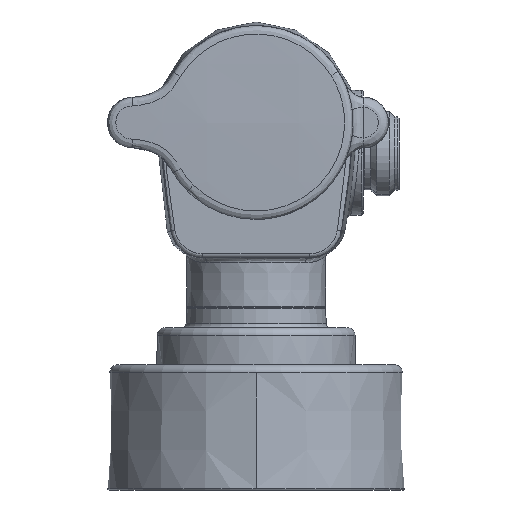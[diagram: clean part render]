
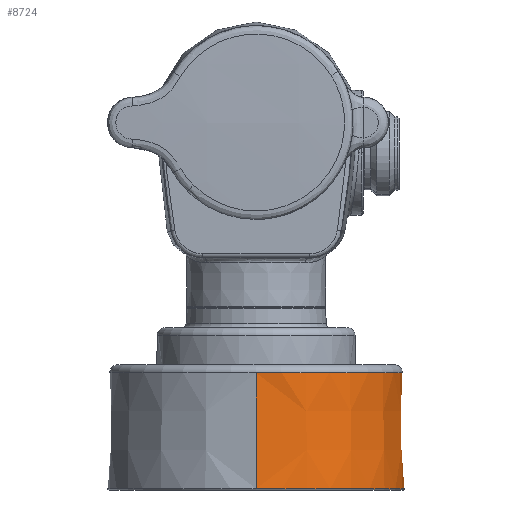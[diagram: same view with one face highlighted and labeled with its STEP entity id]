
A CAD part, left-side view. The second image highlights one B-rep face of the part: STEP entity #8724.
In plain terms, the highlighted conical face has half-angle 1 degrees and reference radius 36.2 mm.
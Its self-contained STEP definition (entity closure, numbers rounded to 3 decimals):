
#452 = DIRECTION ( 'NONE',  ( 0., 0., 1. ) ) ;
#1197 = AXIS2_PLACEMENT_3D ( 'NONE', #18469, #1895, #21261 ) ;
#1868 = CARTESIAN_POINT ( 'NONE',  ( 10.741, 141.453, 188.774 ) ) ;
#1895 = DIRECTION ( 'NONE',  ( 0., 0., -1. ) ) ;
#1911 = AXIS2_PLACEMENT_3D ( 'NONE', #9439, #28836, #12238 ) ;
#2294 = EDGE_CURVE ( 'NONE', #30752, #12776, #11735, .T. ) ;
#2353 = CONICAL_SURFACE ( 'NONE', #32284, 36.2, 0.017 ) ;
#2758 = ORIENTED_EDGE ( 'NONE', *, *, #4193, .F. ) ;
#4193 = EDGE_CURVE ( 'NONE', #16079, #23847, #35238, .T. ) ;
#4456 = DIRECTION ( 'NONE',  ( 0.017, 0., -1. ) ) ;
#4644 = AXIS2_PLACEMENT_3D ( 'NONE', #26244, #9631, #29008 ) ;
#5084 = ORIENTED_EDGE ( 'NONE', *, *, #2294, .T. ) ;
#5193 = VECTOR ( 'NONE', #17486, 1000. ) ;
#5235 = CIRCLE ( 'NONE', #20185, 36.736 ) ;
#6365 = CIRCLE ( 'NONE', #1197, 36.234 ) ;
#6966 = EDGE_CURVE ( 'NONE', #12776, #10570, #22693, .T. ) ;
#8724 = ADVANCED_FACE ( 'NONE', ( #31841 ), #2353, .T. ) ;
#8777 = EDGE_CURVE ( 'NONE', #29872, #30752, #17104, .T. ) ;
#9439 = CARTESIAN_POINT ( 'NONE',  ( 46.976, 141.453, 188.774 ) ) ;
#9631 = DIRECTION ( 'NONE',  ( 0., 0., 1. ) ) ;
#9893 = CARTESIAN_POINT ( 'NONE',  ( 83.176, 141.453, 190.739 ) ) ;
#10059 = CARTESIAN_POINT ( 'NONE',  ( 83.711, 141.453, 160.044 ) ) ;
#10570 = VERTEX_POINT ( 'NONE', #24435 ) ;
#11288 = ORIENTED_EDGE ( 'NONE', *, *, #8777, .T. ) ;
#11735 = LINE ( 'NONE', #28498, #5193 ) ;
#12109 = DIRECTION ( 'NONE',  ( 0., 0., -1. ) ) ;
#12238 = DIRECTION ( 'NONE',  ( 0., -1., 0. ) ) ;
#12776 = VERTEX_POINT ( 'NONE', #27853 ) ;
#13996 = EDGE_LOOP ( 'NONE', ( #23464, #11288, #5084, #19459, #19295, #2758 ) ) ;
#14914 = DIRECTION ( 'NONE',  ( 1., 0., 0. ) ) ;
#16079 = VERTEX_POINT ( 'NONE', #31459 ) ;
#17015 = CARTESIAN_POINT ( 'NONE',  ( 46.976, 141.453, 160.044 ) ) ;
#17104 = CIRCLE ( 'NONE', #1911, 36.234 ) ;
#17486 = DIRECTION ( 'NONE',  ( -0.017, 0., -1. ) ) ;
#18469 = CARTESIAN_POINT ( 'NONE',  ( 46.976, 141.453, 188.774 ) ) ;
#18940 = EDGE_CURVE ( 'NONE', #16079, #29872, #6365, .T. ) ;
#19295 = ORIENTED_EDGE ( 'NONE', *, *, #32082, .T. ) ;
#19459 = ORIENTED_EDGE ( 'NONE', *, *, #6966, .T. ) ;
#19813 = DIRECTION ( 'NONE',  ( 0., 1., 0. ) ) ;
#20185 = AXIS2_PLACEMENT_3D ( 'NONE', #17015, #452, #19813 ) ;
#21261 = DIRECTION ( 'NONE',  ( 0., -1., 0. ) ) ;
#22693 = CIRCLE ( 'NONE', #4644, 36.736 ) ;
#23016 = CARTESIAN_POINT ( 'NONE',  ( 46.976, 141.453, 190.739 ) ) ;
#23464 = ORIENTED_EDGE ( 'NONE', *, *, #18940, .T. ) ;
#23847 = VERTEX_POINT ( 'NONE', #10059 ) ;
#24435 = CARTESIAN_POINT ( 'NONE',  ( 46.976, 104.717, 160.044 ) ) ;
#24492 = CARTESIAN_POINT ( 'NONE',  ( 46.976, 105.219, 188.774 ) ) ;
#26244 = CARTESIAN_POINT ( 'NONE',  ( 46.976, 141.453, 160.044 ) ) ;
#27853 = CARTESIAN_POINT ( 'NONE',  ( 10.24, 141.453, 160.044 ) ) ;
#27883 = VECTOR ( 'NONE', #4456, 1000. ) ;
#28498 = CARTESIAN_POINT ( 'NONE',  ( 10.776, 141.453, 190.739 ) ) ;
#28836 = DIRECTION ( 'NONE',  ( 0., 0., -1. ) ) ;
#29008 = DIRECTION ( 'NONE',  ( 0., 1., 0. ) ) ;
#29872 = VERTEX_POINT ( 'NONE', #24492 ) ;
#30752 = VERTEX_POINT ( 'NONE', #1868 ) ;
#31459 = CARTESIAN_POINT ( 'NONE',  ( 83.21, 141.453, 188.774 ) ) ;
#31841 = FACE_OUTER_BOUND ( 'NONE', #13996, .T. ) ;
#32082 = EDGE_CURVE ( 'NONE', #10570, #23847, #5235, .T. ) ;
#32284 = AXIS2_PLACEMENT_3D ( 'NONE', #23016, #12109, #14914 ) ;
#35238 = LINE ( 'NONE', #9893, #27883 ) ;
